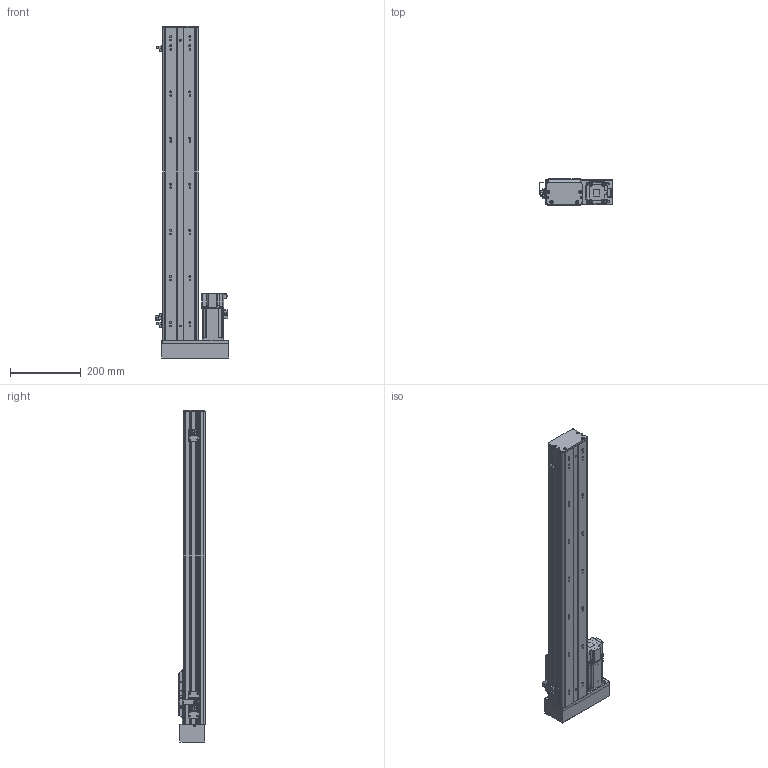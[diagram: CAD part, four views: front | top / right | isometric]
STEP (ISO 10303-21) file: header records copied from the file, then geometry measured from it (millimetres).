
FILE_DESCRIPTION (( 'STEP AP203' ), '1' );
FILE_NAME ('BOSW100-700-1610-1P-LM-M400W-O-S3（方程式2016）.step', '2020-10-10T06:57:58', ( '' ), ( '' ), 'SwSTEP 2.0', 'SolidWorks 2016', '' );
FILE_SCHEMA (( 'CONFIG_CONTROL_DESIGN' ));
Length unit declared in the file: millimetre
Products named in the file (14): 俋境嫖覜嘐隅啣; S400W(SMA-L040); BOSW&TW-100-詩湍揤沭(陔賦凳); 新结构AIMSW-100-1P-宽&高轨共用-滑动座上组件; BOSW&TW-100-俋离覜茼え; BOSW-100-1P-DM-宽轨-侧板-700客户图纸; BOSW100-700-1610-1P-LM-M400W-O-S3（方程式2016）; BOSW&TW-100-1P-賑雄釱欶; BOSW-100-1P-DM-宽轨-钢带-700客户图纸; AIMS(W)-100-LM&RM-肮祭謫欶; BOSW-100-1P-DM-700諦誧芞; BOSW-100-綴裔啣; boS-100-LM&RM-三菱M400W马达板-宽轨; 放大器内置U型微型光电传感器PM-L65
Assembly tree (19 placements, depth 2):
  BOSW100-700-1610-1P-LM-M400W-O-S3（方程式2016）
    BOSW-100-1P-DM-700諦誧芞
    BOSW-100-綴裔啣
    新结构AIMSW-100-1P-宽&高轨共用-滑动座上组件
    S400W(SMA-L040)
    BOSW&TW-100-詩湍揤沭(陔賦凳)  x2
    BOSW&TW-100-1P-賑雄釱欶
    BOSW&TW-100-俋离覜茼え
    俋境嫖覜嘐隅啣  x3
    放大器内置U型微型光电传感器PM-L65  x3
    BOSW-100-1P-DM-宽轨-侧板-700客户图纸  x2
    BOSW-100-1P-DM-宽轨-钢带-700客户图纸
    AIMS(W)-100-LM&RM-肮祭謫欶
    boS-100-LM&RM-三菱M400W马达板-宽轨
Bounding box: 207.9 x 75 x 936 mm (x, y, z)
Volume: 2102633.2 mm3; surface area: 989985.7 mm2
Topology: 19 solids, 20 shells, 2549 faces, 6735 edges, 4299 vertices
Faces by surface type: plane 1245, cylinder 818, bspline 271, cone 167, torus 36, sphere 12
Entity records: 70148 total; most frequent: CARTESIAN_POINT 20968, ORIENTED_EDGE 10010, DIRECTION 9705, EDGE_CURVE 5005, AXIS2_PLACEMENT_3D 3449, VERTEX_POINT 3201, VECTOR 2807, LINE 2807
